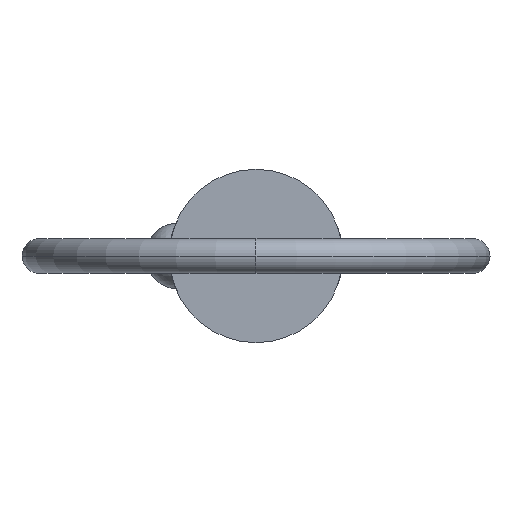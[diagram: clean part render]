
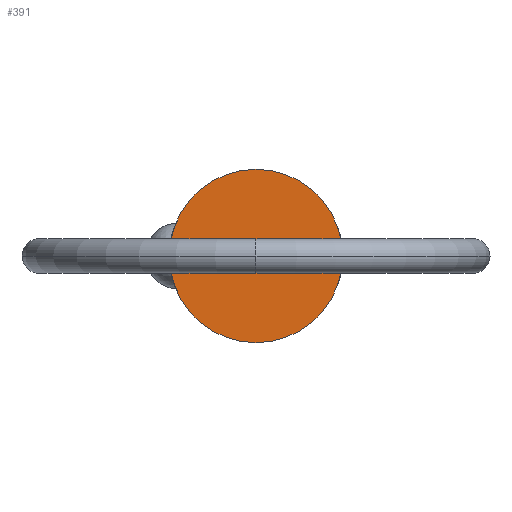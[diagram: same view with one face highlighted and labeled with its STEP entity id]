
A CAD part, left-side view. The second image highlights one B-rep face of the part: STEP entity #391.
In plain terms, the highlighted planar face has unit normal (-1, 0, 0).
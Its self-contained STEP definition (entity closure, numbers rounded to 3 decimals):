
#84 = AXIS2_PLACEMENT_3D ( 'NONE', #440, #855, #168 ) ;
#103 = CARTESIAN_POINT ( 'NONE',  ( 0., 0., 6.35 ) ) ;
#107 = FACE_OUTER_BOUND ( 'NONE', #258, .T. ) ;
#140 = AXIS2_PLACEMENT_3D ( 'NONE', #585, #239, #395 ) ;
#168 = DIRECTION ( 'NONE',  ( 0., 0., -1. ) ) ;
#201 = CIRCLE ( 'NONE', #520, 6.35 ) ;
#234 = DIRECTION ( 'NONE',  ( 0., 0., -1. ) ) ;
#239 = DIRECTION ( 'NONE',  ( -1., 0., 0. ) ) ;
#258 = EDGE_LOOP ( 'NONE', ( #549, #476 ) ) ;
#305 = VERTEX_POINT ( 'NONE', #103 ) ;
#347 = EDGE_CURVE ( 'NONE', #380, #305, #201, .T. ) ;
#380 = VERTEX_POINT ( 'NONE', #663 ) ;
#384 = PLANE ( 'NONE',  #140 ) ;
#391 = ADVANCED_FACE ( 'NONE', ( #107 ), #384, .T. ) ;
#395 = DIRECTION ( 'NONE',  ( 0., 0., 1. ) ) ;
#440 = CARTESIAN_POINT ( 'NONE',  ( 0., 0., 0. ) ) ;
#476 = ORIENTED_EDGE ( 'NONE', *, *, #854, .F. ) ;
#481 = CIRCLE ( 'NONE', #84, 6.35 ) ;
#520 = AXIS2_PLACEMENT_3D ( 'NONE', #711, #725, #234 ) ;
#549 = ORIENTED_EDGE ( 'NONE', *, *, #347, .F. ) ;
#585 = CARTESIAN_POINT ( 'NONE',  ( 0., 0., 0. ) ) ;
#663 = CARTESIAN_POINT ( 'NONE',  ( 0., 0., -6.35 ) ) ;
#711 = CARTESIAN_POINT ( 'NONE',  ( 0., 0., 0. ) ) ;
#725 = DIRECTION ( 'NONE',  ( 1., 0., 0. ) ) ;
#854 = EDGE_CURVE ( 'NONE', #305, #380, #481, .T. ) ;
#855 = DIRECTION ( 'NONE',  ( 1., 0., 0. ) ) ;
